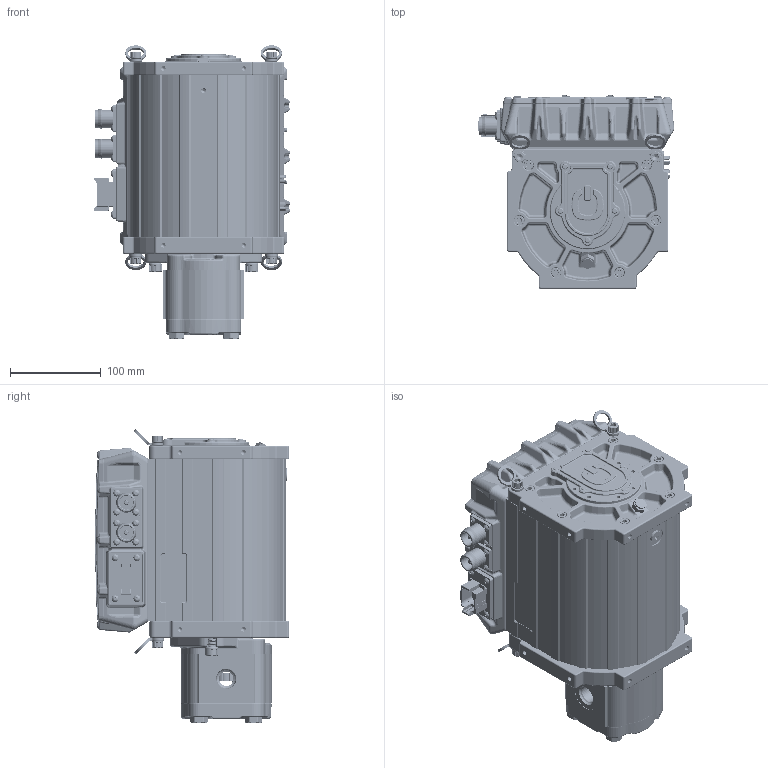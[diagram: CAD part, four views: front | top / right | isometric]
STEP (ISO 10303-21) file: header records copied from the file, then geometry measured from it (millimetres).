
FILE_DESCRIPTION (( 'STEP AP214' ), '1' );
FILE_NAME ('025-117-X Hollow Model.STEP', '2025-10-01T19:23:24', ( '' ), ( '' ), 'SwSTEP 2.0', 'SolidWorks 2019', '' );
FILE_SCHEMA (( 'AUTOMOTIVE_DESIGN' ));
Length unit declared in the file: inch
Products named in the file (1): 025-117-X Hollow Model
Bounding box: 216.33 x 213.66 x 323.33 mm (x, y, z)
Surface area: 755997.9 mm2 (no closed solid volume)
Topology: 0 solids, 89 shells, 15200 faces, 40486 edges, 25506 vertices
Faces by surface type: plane 6135, cylinder 4265, cone 1907, torus 1573, bspline 1140, sphere 180
Entity records: 852425 total; most frequent: CARTESIAN_POINT 303142, ORIENTED_EDGE 80400, DIRECTION 66133, EDGE_CURVE 40200, VERTEX_POINT 25502, AXIS2_PLACEMENT_3D 23847, LINE 18439, VECTOR 18439
